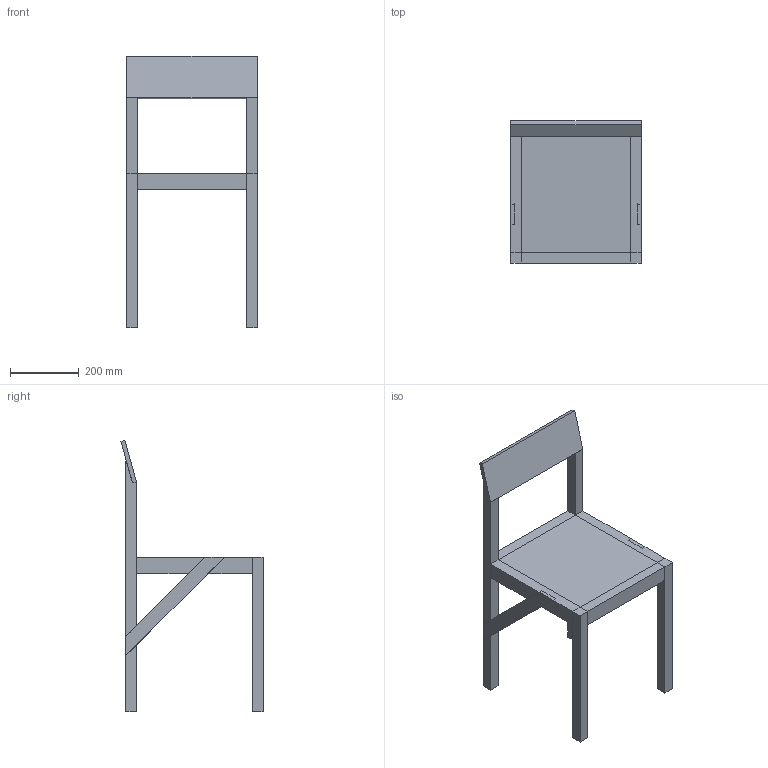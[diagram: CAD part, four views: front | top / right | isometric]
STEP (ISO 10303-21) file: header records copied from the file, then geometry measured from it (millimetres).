
FILE_DESCRIPTION(/* description */ (''),/* implementation_level */ '2;1');
FILE_NAME(/* name */ 'FRAMA_Bracket-Chair3D',/* time_stamp */ '2025-10-22T15:40:10+02:00',/* author */ (''),/* organization */ (''),/* preprocessor_version */ 'ST-DEVELOPER v16.5',/* originating_system */ 'Rhino 7.38',/* authorisation */ '');
FILE_SCHEMA (('CONFIG_CONTROL_DESIGN'));
Length unit declared in the file: millimetre
Products named in the file (1): Document
Bounding box: 380 x 414.07 x 790.42 mm (x, y, z)
Volume: 7073213.7 mm3; surface area: 948875.5 mm2
Topology: 12 solids, 12 shells, 100 faces, 228 edges, 152 vertices
Faces by surface type: plane 100
Entity records: 2476 total; most frequent: CARTESIAN_POINT 707, ORIENTED_EDGE 456, EDGE_CURVE 228, B_SPLINE_CURVE_WITH_KNOTS 228, VERTEX_POINT 152, DIRECTION 101, ADVANCED_FACE 100, FACE_OUTER_BOUND 100
